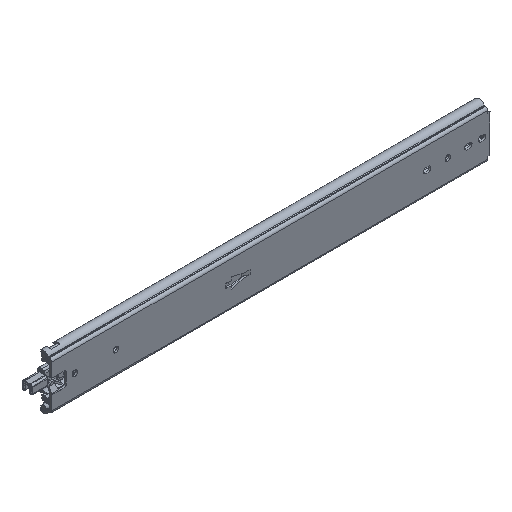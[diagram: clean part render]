
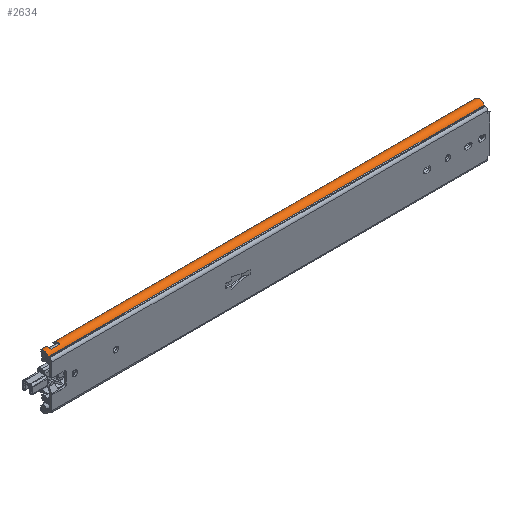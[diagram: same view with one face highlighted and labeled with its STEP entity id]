
A CAD part, isometric view. The second image highlights one B-rep face of the part: STEP entity #2634.
In plain terms, the highlighted cylindrical face has radius 7.25 mm (diameter 14.5 mm), a partial arc.
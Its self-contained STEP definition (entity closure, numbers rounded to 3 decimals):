
#5=CARTESIAN_POINT('',(0.,16.079,36.021));
#6=CARTESIAN_POINT('',(0.,15.489,36.501));
#7=CARTESIAN_POINT('',(0.,14.228,37.235));
#8=CARTESIAN_POINT('',(0.,12.05,37.743));
#9=CARTESIAN_POINT('',(0.,9.839,37.57));
#10=CARTESIAN_POINT('',(0.,7.778,36.754));
#11=CARTESIAN_POINT('',(0.,6.044,35.337));
#12=CARTESIAN_POINT('',(0.,5.235,34.131));
#13=CARTESIAN_POINT('',(0.,4.911,33.428));
#330=CARTESIAN_POINT('',(604.6,4.916,33.436));
#332=CARTESIAN_POINT('',(604.6,11.5,30.4));
#333=DIRECTION('',(-1.,0.,0.));
#334=DIRECTION('',(0.,-0.908,0.419));
#335=AXIS2_PLACEMENT_3D('',#332,#333,#334);
#341=CARTESIAN_POINT('',(0.,16.079,
36.021));
#342=CARTESIAN_POINT('',(0.465,16.446,35.722));
#343=CARTESIAN_POINT('',(0.932,16.779,35.392));
#344=CARTESIAN_POINT('',(1.401,17.079,35.031));
#346=DIRECTION('',(1.,0.,0.));
#347=VECTOR('',#346,6.099);
#348=CARTESIAN_POINT('',(1.401,17.079,35.031));
#349=LINE('',#348,#347);
#350=DIRECTION('',(1.,0.,0.));
#351=VECTOR('',#350,583.765);
#352=CARTESIAN_POINT('',(19.5,17.079,35.031));
#353=LINE('',#352,#351);
#354=CARTESIAN_POINT('',(603.265,17.079,35.031));
#355=CARTESIAN_POINT('',(603.559,16.877,35.274));
#356=CARTESIAN_POINT('',(604.047,16.408,35.776));
#357=CARTESIAN_POINT('',(604.507,15.441,36.529));
#358=CARTESIAN_POINT('',(604.6,14.673,36.935));
#359=CARTESIAN_POINT('',(604.6,14.255,37.106));
#361=DIRECTION('',(-1.,0.,0.));
#362=VECTOR('',#361,604.6);
#363=CARTESIAN_POINT('',(604.6,4.916,33.436));
#364=LINE('',#363,#362);
#381=CARTESIAN_POINT('',(7.5,11.5,30.4));
#382=DIRECTION('',(-1.,0.,0.));
#383=DIRECTION('',(0.,-0.412,0.911));
#384=AXIS2_PLACEMENT_3D('',#381,#382,#383);
#417=DIRECTION('',(-1.,0.,0.));
#418=VECTOR('',#417,12.);
#419=CARTESIAN_POINT('',(19.5,8.515,37.007));
#420=LINE('',#419,#418);
#505=CARTESIAN_POINT('',(19.5,11.5,30.4));
#506=DIRECTION('',(1.,0.,0.));
#507=DIRECTION('',(0.,0.769,0.639));
#508=AXIS2_PLACEMENT_3D('',#505,#506,#507);
#1808=CARTESIAN_POINT('',(0.,16.079,
36.021));
#1810=VERTEX_POINT('',#1808);
#1811=VERTEX_POINT('',#13);
#1863=CARTESIAN_POINT('',(1.401,17.079,35.031));
#1864=VERTEX_POINT('',#1863);
#2133=CARTESIAN_POINT('',(604.6,14.255,37.106));
#2134=VERTEX_POINT('',#2133);
#2138=VERTEX_POINT('',#330);
#2153=VERTEX_POINT('',#354);
#2158=CARTESIAN_POINT('',(7.5,17.079,35.031));
#2159=VERTEX_POINT('',#2158);
#2160=CARTESIAN_POINT('',(7.5,8.515,37.007));
#2161=VERTEX_POINT('',#2160);
#2162=CARTESIAN_POINT('',(19.5,8.515,37.007));
#2163=VERTEX_POINT('',#2162);
#2164=CARTESIAN_POINT('',(19.5,17.079,35.031));
#2165=VERTEX_POINT('',#2164);
#2611=CARTESIAN_POINT('',(0.,11.5,30.4));
#2612=DIRECTION('',(1.,0.,0.));
#2613=DIRECTION('',(0.,-1.,0.));
#2614=AXIS2_PLACEMENT_3D('',#2611,#2612,#2613);
#2615=CYLINDRICAL_SURFACE('',#2614,7.25);
#2616=ORIENTED_EDGE('',*,*,#2356,.T.);
#2618=ORIENTED_EDGE('',*,*,#2617,.T.);
#2620=ORIENTED_EDGE('',*,*,#2619,.F.);
#2622=ORIENTED_EDGE('',*,*,#2621,.F.);
#2624=ORIENTED_EDGE('',*,*,#2623,.F.);
#2626=ORIENTED_EDGE('',*,*,#2625,.T.);
#2627=ORIENTED_EDGE('',*,*,#2598,.T.);
#2628=ORIENTED_EDGE('',*,*,#2588,.F.);
#2630=ORIENTED_EDGE('',*,*,#2629,.T.);
#2631=ORIENTED_EDGE('',*,*,#2318,.F.);
#2632=EDGE_LOOP('',(#2616,#2618,#2620,#2622,#2624,#2626,#2627,#2628,#2630,
#2631));
#2633=FACE_OUTER_BOUND('',#2632,.F.);
#14=B_SPLINE_CURVE_WITH_KNOTS('',3,(#5,#6,#7,#8,#9,#10,#11,#12,#13),
.UNSPECIFIED.,.F.,.F.,(4,1,1,1,1,1,4),(0.,0.167,0.333,
0.5,0.667,0.833,1.),.UNSPECIFIED.);
#336=CIRCLE('',#335,7.25);
#345=B_SPLINE_CURVE_WITH_KNOTS('',3,(#341,#342,#343,#344),.UNSPECIFIED.,.F.,.F.,
(4,4),(0.,1.),.UNSPECIFIED.);
#360=B_SPLINE_CURVE_WITH_KNOTS('',3,(#354,#355,#356,#357,#358,#359),
.UNSPECIFIED.,.F.,.F.,(4,1,1,4),(0.,0.333,0.667,1.),
.UNSPECIFIED.);
#385=CIRCLE('',#384,7.25);
#509=CIRCLE('',#508,7.25);
#2318=EDGE_CURVE('',#1810,#1811,#14,.T.);
#2356=EDGE_CURVE('',#1810,#1864,#345,.T.);
#2588=EDGE_CURVE('',#2138,#2134,#336,.T.);
#2598=EDGE_CURVE('',#2153,#2134,#360,.T.);
#2617=EDGE_CURVE('',#1864,#2159,#349,.T.);
#2619=EDGE_CURVE('',#2161,#2159,#385,.T.);
#2621=EDGE_CURVE('',#2163,#2161,#420,.T.);
#2623=EDGE_CURVE('',#2165,#2163,#509,.T.);
#2625=EDGE_CURVE('',#2165,#2153,#353,.T.);
#2629=EDGE_CURVE('',#2138,#1811,#364,.T.);
#2634=ADVANCED_FACE('',(#2633),#2615,.T.);
